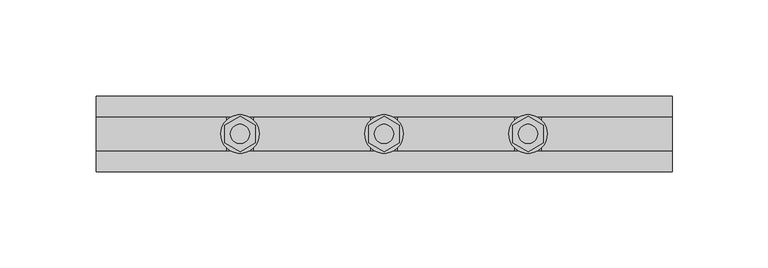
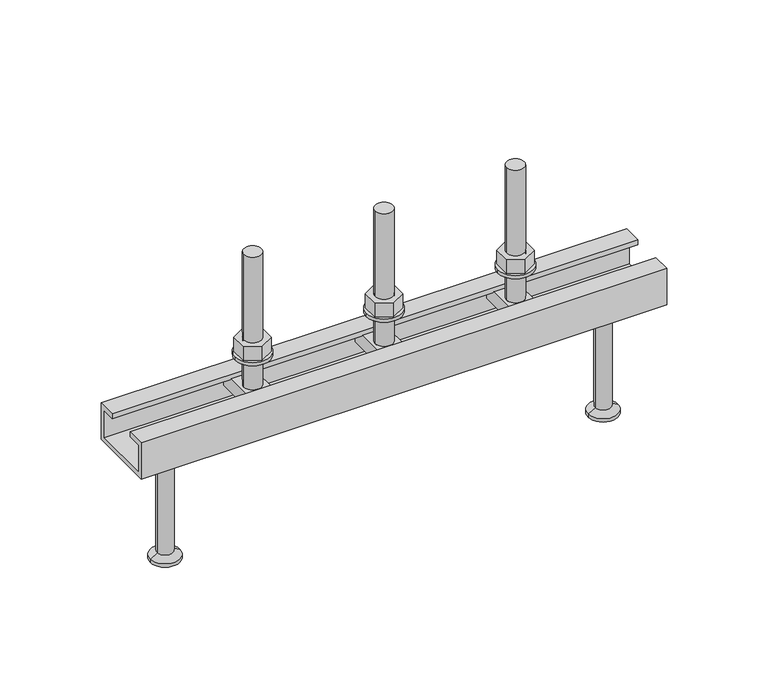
"""IFC4 building model written with IfcOpenShell, lengths in millimetres: fastener geometry, JTA-W JORDAHL® AnchorChannels : JTA-W L=300 mm."""

import ifcopenshell
import ifcopenshell.guid

model = None  # the IFC model being written
_history = None  # IfcOwnerHistory: only IFC2X3 demands one
_inside = {}  # id of a spatial element -> (the spatial element, [elements in it])
_under = {}  # id of a project, library or spatial element -> (it, [spatial elements below it])
_declared = {}  # id of a project -> (the project, [libraries it declares])
_typed = {}  # id of a type object -> (the type object, [elements of that type])
_made_of = {}  # id of a material, layer set ... -> (it, [elements and type objects made of it])


def new_model(schema):
    """Start an empty IFC model of exactly this schema.

    Asked for "IFC4X3", IfcOpenShell would pick the latest addendum, in which some entities
    have other attributes; the version numbers below select the first issue.
    IFC2X3 requires an IfcOwnerHistory on every rooted entity: one is made here for all.
    """
    global model, _history
    if schema == "IFC4X3":
        model = ifcopenshell.file(schema_version=(4, 3, 0, 0))
    else:
        model = ifcopenshell.file(schema=schema)
    _inside.clear()
    _under.clear()
    _declared.clear()
    _typed.clear()
    _made_of.clear()
    _history = None
    if model.schema == "IFC2X3":
        org = make("IfcOrganization", Name="unknown")
        user = make(
            "IfcPersonAndOrganization",
            ThePerson=make("IfcPerson", FamilyName="unknown"),
            TheOrganization=org,
        )
        app = make(
            "IfcApplication",
            ApplicationDeveloper=org,
            Version="unknown",
            ApplicationFullName="unknown",
            ApplicationIdentifier="unknown",
        )
        _history = make(
            "IfcOwnerHistory",
            OwningUser=user,
            OwningApplication=app,
            ChangeAction="ADDED",
            CreationDate=0,
        )
    return model


def make(cls, **values):
    """One entity of the class cls with the attributes given. An attribute that is None is left unset."""
    return model.create_entity(
        cls, **{name: value for name, value in values.items() if value is not None}
    )


def rooted(cls, **values):
    """An entity with a GlobalId (a new one), such as an element, a storey or a relation."""
    return make(cls, GlobalId=ifcopenshell.guid.new(), OwnerHistory=_history, **values)


def si_unit(unit_type, name, prefix=None):
    """IfcSIUnit, for example si_unit("LENGTHUNIT", "METRE", prefix="MILLI")."""
    return make("IfcSIUnit", UnitType=unit_type, Prefix=prefix, Name=name)


def assignment(units):
    """IfcUnitAssignment: the units of a project."""
    return None if units is None else make("IfcUnitAssignment", Units=units)


def point(xyz):
    """IfcCartesianPoint."""
    return None if xyz is None else make("IfcCartesianPoint", Coordinates=xyz)


def direction(xyz):
    """IfcDirection."""
    return None if xyz is None else make("IfcDirection", DirectionRatios=xyz)


def frame(location, z_axis=None, x_axis=None):
    """IfcAxis2Placement3D, a coordinate frame: its origin and axes. An axis left out is left unset."""
    return make(
        "IfcAxis2Placement3D",
        Location=point(location),
        Axis=direction(z_axis),
        RefDirection=direction(x_axis),
    )


def frame_2d(location, x_axis=None):
    """IfcAxis2Placement2D, a coordinate frame in the plane: its origin and x axis."""
    return make(
        "IfcAxis2Placement2D", Location=point(location), RefDirection=direction(x_axis)
    )


def origin():
    """The frame at (0, 0, 0) with its axes left unset."""
    return frame((0.0, 0.0, 0.0))


def place(relative_to, where):
    """IfcLocalPlacement: puts the frame where relative to a parent placement (None: the world)."""
    return make(
        "IfcLocalPlacement", PlacementRelTo=relative_to, RelativePlacement=where
    )


def context(
    kind, dimensions, precision=None, world=None, true_north=None, identifier=None
):
    """IfcGeometricRepresentationContext, for example the 3D "Model" context."""
    return make(
        "IfcGeometricRepresentationContext",
        ContextIdentifier=identifier,
        ContextType=kind,
        CoordinateSpaceDimension=dimensions,
        Precision=precision,
        WorldCoordinateSystem=world,
        TrueNorth=true_north,
    )


def project(units=None, contexts=None):
    """IfcProject with its units and contexts."""
    return rooted(
        "IfcProject",
        Name="project",
        RepresentationContexts=contexts,
        UnitsInContext=assignment(units),
    )


def spatial(cls, under=None, at=None, **own):
    """A site, building, storey or space (cls), placed at a placement, below another one or the project."""
    s = rooted(cls, ObjectPlacement=at, **own)
    if under is not None:
        _under.setdefault(under.id(), (under, []))[1].append(s)
    return s


def polyline(points):
    """IfcPolyline through the points."""
    return make("IfcPolyline", Points=[point(p) for p in points])


def circle_curve(where, radius):
    """IfcCircle in the frame where."""
    return make("IfcCircle", Position=where, Radius=radius)


def trimmed(basis, trim1, trim2, sense, master):
    """IfcTrimmedCurve: the piece of a basis curve between two trims."""
    return make(
        "IfcTrimmedCurve",
        BasisCurve=basis,
        Trim1=trim1,
        Trim2=trim2,
        SenseAgreement=sense,
        MasterRepresentation=master,
    )


def segment(curve, same_sense, transition):
    """IfcCompositeCurveSegment."""
    return make(
        "IfcCompositeCurveSegment",
        Transition=transition,
        SameSense=same_sense,
        ParentCurve=curve,
    )


def composite_curve(segments, self_intersect=None):
    """IfcCompositeCurve: segments joined end to end."""
    return make("IfcCompositeCurve", Segments=segments, SelfIntersect=self_intersect)


def outline(outer, holes=None, kind="AREA"):
    """IfcArbitraryClosedProfileDef: a profile drawn as a closed curve; with holes, ...WithVoids."""
    if holes is None:
        return make("IfcArbitraryClosedProfileDef", ProfileType=kind, OuterCurve=outer)
    return make(
        "IfcArbitraryProfileDefWithVoids",
        ProfileType=kind,
        OuterCurve=outer,
        InnerCurves=holes,
    )


def extrude(swept, where, along, depth):
    """IfcExtrudedAreaSolid: the profile swept, set in the frame where, extruded along a direction by depth."""
    return make(
        "IfcExtrudedAreaSolid",
        SweptArea=swept,
        Position=where,
        ExtrudedDirection=direction(along),
        Depth=depth,
    )


def shape(context_of_items, identifier, shape_type, items):
    """IfcShapeRepresentation: the items that make up one representation, for example the "Body"."""
    return make(
        "IfcShapeRepresentation",
        ContextOfItems=context_of_items,
        RepresentationIdentifier=identifier,
        RepresentationType=shape_type,
        Items=items,
    )


def source(mapping_origin, context_of_items, identifier, shape_type, items):
    """IfcRepresentationMap: a shape defined once, which mapped items show again and again."""
    return make(
        "IfcRepresentationMap",
        MappingOrigin=mapping_origin,
        MappedRepresentation=shape(context_of_items, identifier, shape_type, items),
    )


def transform(
    local_origin,
    x_axis=None,
    y_axis=None,
    z_axis=None,
    scale=None,
    scale2=None,
    scale3=None,
    uniform=True,
):
    """IfcCartesianTransformationOperator3D, or its non-uniform kind. x_axis, y_axis, z_axis: its Axis1, 2, 3."""
    if uniform:
        return make(
            "IfcCartesianTransformationOperator3D",
            Axis1=direction(x_axis),
            Axis2=direction(y_axis),
            LocalOrigin=point(local_origin),
            Scale=scale,
            Axis3=direction(z_axis),
        )
    return make(
        "IfcCartesianTransformationOperator3DnonUniform",
        Axis1=direction(x_axis),
        Axis2=direction(y_axis),
        LocalOrigin=point(local_origin),
        Scale=scale,
        Axis3=direction(z_axis),
        Scale2=scale2,
        Scale3=scale3,
    )


def mapped(mapping_source, mapping_target):
    """IfcMappedItem: shows the shape of a source again, moved by a transform."""
    return make(
        "IfcMappedItem", MappingSource=mapping_source, MappingTarget=mapping_target
    )


def made_of(thing, what):
    """Note that an element or type object is made of a material, layer set ...; save() writes the relation."""
    if what is not None:
        _made_of.setdefault(what.id(), (what, []))[1].append(thing)
    return thing


def element(
    cls,
    number,
    at=None,
    inside=None,
    cuts=None,
    type_object=None,
    material=None,
    context=None,
    identifier="Body",
    shape_type=None,
    held_by="IfcProductDefinitionShape",
    body=None,
    shapes=None,
    **own,
):
    """One element of the class cls, such as IfcWall. Its Tag is "e" and its number.

    at: its placement. inside: the storey or other place that contains it. cuts: it is an
    opening in that element (IfcRelVoidsElement). A single representation is given by context,
    identifier, shape_type and body (its items); several are given by shapes. held_by: the class
    of the entity that holds the representations. save() writes the other relations.
    """
    e = rooted(cls, Tag="e%d" % number, ObjectPlacement=at, **own)
    if body is not None:
        shapes = [shape(context, identifier, shape_type, body)]
    if shapes is not None:
        e.Representation = make(held_by, Representations=shapes)
    if inside is not None:
        _inside.setdefault(inside.id(), (inside, []))[1].append(e)
    if cuts is not None:
        rooted(
            "IfcRelVoidsElement", RelatingBuildingElement=cuts, RelatedOpeningElement=e
        )
    if type_object is not None:
        _typed.setdefault(type_object.id(), (type_object, []))[1].append(e)
    return made_of(e, material)


def aggregate(whole, parts):
    """IfcRelAggregates: a whole, such as a stair, and the parts it consists of."""
    return rooted("IfcRelAggregates", RelatingObject=whole, RelatedObjects=parts)


def save(model, path):
    """Write the relations noted so far, then the file.

    IfcRelAggregates (storeys below a building ...), IfcRelContainedInSpatialStructure (elements
    in a storey), IfcRelDefinesByType, IfcRelAssociatesMaterial and IfcRelDeclares: one each for
    every whole, place, type object, material and project.
    """
    for whole, parts in _under.values():
        aggregate(whole, parts)
    for where, things in _inside.values():
        rooted(
            "IfcRelContainedInSpatialStructure",
            RelatedElements=things,
            RelatingStructure=where,
        )
    for kind, things in _typed.values():
        rooted("IfcRelDefinesByType", RelatedObjects=things, RelatingType=kind)
    for what, things in _made_of.values():
        rooted("IfcRelAssociatesMaterial", RelatedObjects=things, RelatingMaterial=what)
    for by, libraries in _declared.values():
        rooted("IfcRelDeclares", RelatingContext=by, RelatedDefinitions=libraries)
    model.write(path)


def plane_surface(at):
    """IfcPlane: the flat surface through the origin of the frame at, square to its z axis."""
    return make("IfcPlane", Position=at)


def cylinder_surface(at, radius):
    """IfcCylindricalSurface: all points at the distance radius from the z axis of the frame at."""
    return make("IfcCylindricalSurface", Position=at, Radius=radius)


def revolved_surface(curve, axis_point, axis_direction):
    """IfcSurfaceOfRevolution: the curve turned about the line through axis_point along axis_direction."""
    return make(
        "IfcSurfaceOfRevolution",
        SweptCurve=make("IfcArbitraryOpenProfileDef", ProfileType="CURVE", Curve=curve),
        AxisPosition=make("IfcAxis1Placement", Location=point(axis_point), Axis=direction(axis_direction)),
    )


def advanced_brep(points, edges, surfaces, faces):
    """IfcAdvancedBrep: a solid bounded by faces that lie on surfaces and meet in shared edges.

    An edge is (start, end): straight between two places in points (the first is 0);
    or (start, end, curve); or (start, end, curve, False) where it runs against its curve.
    A face is (place in surfaces, loops), or (place, loops, False) where it looks against
    its surface's normal. A loop lists edges by number (the first is 1), with a minus sign
    where the edge is run from its end to its start. The first loop is the outer one.
    """
    corners = [point(p) for p in points]
    vertices = [make("IfcVertexPoint", VertexGeometry=c) for c in corners]
    made = []
    for start, end, *more in edges:
        made.append(
            make(
                "IfcEdgeCurve",
                EdgeStart=vertices[start],
                EdgeEnd=vertices[end],
                EdgeGeometry=more[0] if more else make("IfcPolyline", Points=[corners[start], corners[end]]),
                SameSense=more[1] if len(more) > 1 else True,
            )
        )
    hull = []
    for where, loops, *sense in faces:
        bounds = []
        for j, loop in enumerate(loops):
            ring = [make("IfcOrientedEdge", EdgeElement=made[abs(k) - 1], Orientation=k > 0) for k in loop]
            bounds.append(
                make(
                    "IfcFaceOuterBound" if j == 0 else "IfcFaceBound",
                    Bound=make("IfcEdgeLoop", EdgeList=ring),
                    Orientation=True,
                )
            )
        hull.append(make("IfcAdvancedFace", Bounds=bounds, FaceSurface=surfaces[where], SameSense=sense[0] if sense else True))
    return make("IfcAdvancedBrep", Outer=make("IfcClosedShell", CfsFaces=hull))


def fastener_d3d8a801(model_context):
    return source(origin(), model_context, "Body", "SolidModel", [
        extrude(outline(polyline([(150.0, 9.2376043), (158.0, 4.6188022), (158.0, -4.6188022), (150.0, -9.2376043), (142.0, -4.6188022), (142.0, 4.6188022), (150.0, 9.2376043)]), holes=[composite_curve([segment(trimmed(circle_curve(frame_2d((150.0, 0.0)), 5.0), [point((145.0, 0.0))], [point((155.0, 0.0))], True, "CARTESIAN"), True, "CONTINUOUS"), segment(trimmed(circle_curve(frame_2d((150.0, 0.0)), 5.0), [point((155.0, 0.0))], [point((145.0, 0.0))], True, "CARTESIAN"), True, "CONTINUOUS")], self_intersect=False)]), frame((0.0, 0.0, 17.0), z_axis=(0.0, 0.0, 1.0), x_axis=(1.0, 0.0, 0.0)), (0.0, 0.0, 1.0), 8.4),
        extrude(outline(composite_curve([segment(trimmed(circle_curve(frame_2d((150.0, 0.0)), 10.0), [point((140.0, 0.0))], [point((160.0, 0.0))], False, "CARTESIAN"), True, "CONTINUOUS"), segment(trimmed(circle_curve(frame_2d((150.0, 0.0)), 10.0), [point((160.0, 0.0))], [point((140.0, 0.0))], False, "CARTESIAN"), True, "CONTINUOUS")], self_intersect=False), holes=[composite_curve([segment(trimmed(circle_curve(frame_2d((150.0, 0.0)), 5.25), [point((144.75, 0.0))], [point((155.25, 0.0))], True, "CARTESIAN"), True, "CONTINUOUS"), segment(trimmed(circle_curve(frame_2d((150.0, 0.0)), 5.25), [point((155.25, 0.0))], [point((144.75, 0.0))], True, "CARTESIAN"), True, "CONTINUOUS")], self_intersect=False)]), frame((0.0, 0.0, 15.0), z_axis=(0.0, 0.0, 1.0), x_axis=(1.0, 0.0, 0.0)), (0.0, 0.0, 1.0), 2.0),
        advanced_brep(
        [(157.0, 16.25, -3.0), (157.0, -16.25, -3.0), (157.0, -16.25, -11.0), (157.0, 16.25, -11.0), (143.0, 16.25, -3.0), (143.0, 16.25, -11.0), (143.0, -16.25, -11.0), (143.0, -16.25, -3.0), (155.0, 0.0, -3.0), (145.0, 0.0, -3.0), (145.0, 0.0, 77.0), (155.0, 0.0, 77.0)],
        [
            (0, 1),
            (1, 2),
            (2, 3),
            (3, 0),
            (4, 5),
            (5, 6),
            (6, 7),
            (7, 4),
            (0, 4),
            (7, 1),
            (8, 9, circle_curve(frame((150.0, 0.0, -3.0), z_axis=(0.0, 0.0, -1.0), x_axis=(1.0, 0.0, 0.0)), 5.0)),
            (9, 8, circle_curve(frame((150.0, 0.0, -3.0), z_axis=(0.0, 0.0, -1.0), x_axis=(1.0, 0.0, 0.0)), 5.0)),
            (6, 2),
            (5, 3),
            (10, 11, circle_curve(frame((150.0, 0.0, 77.0), z_axis=(0.0, 0.0, 1.0), x_axis=(1.0, 0.0, 0.0)), 5.0)),
            (11, 10, circle_curve(frame((150.0, 0.0, 77.0), z_axis=(0.0, 0.0, 1.0), x_axis=(1.0, 0.0, 0.0)), 5.0)),
            (10, 9),
            (8, 11),
        ],
        [
            plane_surface(frame((157.0, -16.25, -3.0), z_axis=(1.0, 0.0, 0.0), x_axis=(0.0, -1.0, 0.0))),
            plane_surface(frame((143.0, -16.25, -3.0), z_axis=(-1.0, 0.0, 0.0), x_axis=(0.0, 1.0, 0.0))),
            plane_surface(frame((157.0, 16.25, -3.0), z_axis=(0.0, 0.0, 1.0), x_axis=(-1.0, 0.0, 0.0))),
            plane_surface(frame((157.0, -16.25, -3.0), z_axis=(0.0, -1.0, 0.0), x_axis=(-1.0, 0.0, 0.0))),
            plane_surface(frame((157.0, -16.25, -11.0), z_axis=(0.0, 0.0, -1.0), x_axis=(-1.0, 0.0, 0.0))),
            plane_surface(frame((157.0, 16.25, -11.0), z_axis=(0.0, 1.0, 0.0), x_axis=(-1.0, 0.0, 0.0))),
            plane_surface(frame((155.0, 0.0, 77.0), z_axis=(0.0, 0.0, 1.0), x_axis=(0.0, 1.0, 0.0))),
            cylinder_surface(frame((150.0, 0.0, -3.0), z_axis=(0.0, 0.0, 1.0), x_axis=(1.0, 0.0, 0.0)), 5.0),
        ],
        [
            (0, [[1, 2, 3, 4]]),
            (1, [[5, 6, 7, 8]]),
            (2, [[-1, 9, -8, 10], [11, 12]]),
            (3, [[-2, -10, -7, 13]]),
            (4, [[-3, -13, -6, 14]]),
            (5, [[-4, -14, -5, -9]]),
            (6, [[15, 16]]),
            (7, [[-15, 17, -11, 18]]),
            (7, [[-16, -18, -12, -17]]),
        ],
    ),
        extrude(outline(polyline([(225.0, 9.2376043), (233.0, 4.6188022), (233.0, -4.6188022), (225.0, -9.2376043), (217.0, -4.6188022), (217.0, 4.6188022), (225.0, 9.2376043)]), holes=[composite_curve([segment(trimmed(circle_curve(frame_2d((225.0, 0.0)), 5.0), [point((220.0, 0.0))], [point((230.0, 0.0))], True, "CARTESIAN"), True, "CONTINUOUS"), segment(trimmed(circle_curve(frame_2d((225.0, 0.0)), 5.0), [point((230.0, 0.0))], [point((220.0, 0.0))], True, "CARTESIAN"), True, "CONTINUOUS")], self_intersect=False)]), frame((0.0, 0.0, 17.0), z_axis=(0.0, 0.0, 1.0), x_axis=(1.0, 0.0, 0.0)), (0.0, 0.0, 1.0), 8.4),
        extrude(outline(composite_curve([segment(trimmed(circle_curve(frame_2d((225.0, 0.0)), 10.0), [point((215.0, 0.0))], [point((235.0, 0.0))], False, "CARTESIAN"), True, "CONTINUOUS"), segment(trimmed(circle_curve(frame_2d((225.0, 0.0)), 10.0), [point((235.0, 0.0))], [point((215.0, 0.0))], False, "CARTESIAN"), True, "CONTINUOUS")], self_intersect=False), holes=[composite_curve([segment(trimmed(circle_curve(frame_2d((225.0, 0.0)), 5.25), [point((219.75, 0.0))], [point((230.25, 0.0))], True, "CARTESIAN"), True, "CONTINUOUS"), segment(trimmed(circle_curve(frame_2d((225.0, 0.0)), 5.25), [point((230.25, 0.0))], [point((219.75, 0.0))], True, "CARTESIAN"), True, "CONTINUOUS")], self_intersect=False)]), frame((0.0, 0.0, 15.0), z_axis=(0.0, 0.0, 1.0), x_axis=(1.0, 0.0, 0.0)), (0.0, 0.0, 1.0), 2.0),
        extrude(outline(polyline([(75.0, 9.2376043), (83.0, 4.6188022), (83.0, -4.6188022), (75.0, -9.2376043), (67.0, -4.6188022), (67.0, 4.6188022), (75.0, 9.2376043)]), holes=[composite_curve([segment(trimmed(circle_curve(frame_2d((75.0, 0.0)), 5.0), [point((70.0, 0.0))], [point((80.0, 0.0))], True, "CARTESIAN"), True, "CONTINUOUS"), segment(trimmed(circle_curve(frame_2d((75.0, 0.0)), 5.0), [point((80.0, 0.0))], [point((70.0, 0.0))], True, "CARTESIAN"), True, "CONTINUOUS")], self_intersect=False)]), frame((0.0, 0.0, 17.0), z_axis=(0.0, 0.0, 1.0), x_axis=(1.0, 0.0, 0.0)), (0.0, 0.0, 1.0), 8.4),
        extrude(outline(composite_curve([segment(trimmed(circle_curve(frame_2d((75.0, 0.0)), 10.0), [point((65.0, 0.0))], [point((85.0, 0.0))], False, "CARTESIAN"), True, "CONTINUOUS"), segment(trimmed(circle_curve(frame_2d((75.0, 0.0)), 10.0), [point((85.0, 0.0))], [point((65.0, 0.0))], False, "CARTESIAN"), True, "CONTINUOUS")], self_intersect=False), holes=[composite_curve([segment(trimmed(circle_curve(frame_2d((75.0, 0.0)), 5.25), [point((69.75, 0.0))], [point((80.25, 0.0))], True, "CARTESIAN"), True, "CONTINUOUS"), segment(trimmed(circle_curve(frame_2d((75.0, 0.0)), 5.25), [point((80.25, 0.0))], [point((69.75, 0.0))], True, "CARTESIAN"), True, "CONTINUOUS")], self_intersect=False)]), frame((0.0, 0.0, 15.0), z_axis=(0.0, 0.0, 1.0), x_axis=(1.0, 0.0, 0.0)), (0.0, 0.0, 1.0), 2.0),
        advanced_brep(
        [(232.0, 16.25, -3.0), (232.0, -16.25, -3.0), (232.0, -16.25, -11.0), (232.0, 16.25, -11.0), (218.0, 16.25, -3.0), (218.0, 16.25, -11.0), (218.0, -16.25, -11.0), (218.0, -16.25, -3.0), (230.0, 0.0, -3.0), (220.0, 0.0, -3.0), (220.0, 0.0, 77.0), (230.0, 0.0, 77.0)],
        [
            (0, 1),
            (1, 2),
            (2, 3),
            (3, 0),
            (4, 5),
            (5, 6),
            (6, 7),
            (7, 4),
            (0, 4),
            (7, 1),
            (8, 9, circle_curve(frame((225.0, 0.0, -3.0), z_axis=(0.0, 0.0, -1.0), x_axis=(1.0, 0.0, 0.0)), 5.0)),
            (9, 8, circle_curve(frame((225.0, 0.0, -3.0), z_axis=(0.0, 0.0, -1.0), x_axis=(1.0, 0.0, 0.0)), 5.0)),
            (6, 2),
            (5, 3),
            (10, 11, circle_curve(frame((225.0, 0.0, 77.0), z_axis=(0.0, 0.0, 1.0), x_axis=(1.0, 0.0, 0.0)), 5.0)),
            (11, 10, circle_curve(frame((225.0, 0.0, 77.0), z_axis=(0.0, 0.0, 1.0), x_axis=(1.0, 0.0, 0.0)), 5.0)),
            (10, 9),
            (8, 11),
        ],
        [
            plane_surface(frame((232.0, -16.25, -3.0), z_axis=(1.0, 0.0, 0.0), x_axis=(0.0, -1.0, 0.0))),
            plane_surface(frame((218.0, -16.25, -3.0), z_axis=(-1.0, 0.0, 0.0), x_axis=(0.0, 1.0, 0.0))),
            plane_surface(frame((232.0, 16.25, -3.0), z_axis=(0.0, 0.0, 1.0), x_axis=(-1.0, 0.0, 0.0))),
            plane_surface(frame((232.0, -16.25, -3.0), z_axis=(0.0, -1.0, 0.0), x_axis=(-1.0, 0.0, 0.0))),
            plane_surface(frame((232.0, -16.25, -11.0), z_axis=(0.0, 0.0, -1.0), x_axis=(-1.0, 0.0, 0.0))),
            plane_surface(frame((232.0, 16.25, -11.0), z_axis=(0.0, 1.0, 0.0), x_axis=(-1.0, 0.0, 0.0))),
            plane_surface(frame((230.0, 0.0, 77.0), z_axis=(0.0, 0.0, 1.0), x_axis=(0.0, 1.0, 0.0))),
            cylinder_surface(frame((225.0, 0.0, -3.0), z_axis=(0.0, 0.0, 1.0), x_axis=(1.0, 0.0, 0.0)), 5.0),
        ],
        [
            (0, [[1, 2, 3, 4]]),
            (1, [[5, 6, 7, 8]]),
            (2, [[-1, 9, -8, 10], [11, 12]]),
            (3, [[-2, -10, -7, 13]]),
            (4, [[-3, -13, -6, 14]]),
            (5, [[-4, -14, -5, -9]]),
            (6, [[15, 16]]),
            (7, [[-15, 17, -11, 18]]),
            (7, [[-16, -18, -12, -17]]),
        ],
    ),
        advanced_brep(
        [(82.0, 16.25, -3.0), (82.0, -16.25, -3.0), (82.0, -16.25, -11.0), (82.0, 16.25, -11.0), (68.0, 16.25, -3.0), (68.0, 16.25, -11.0), (68.0, -16.25, -11.0), (68.0, -16.25, -3.0), (80.0, 0.0, -3.0), (70.0, 0.0, -3.0), (70.0, 0.0, 77.0), (80.0, 0.0, 77.0)],
        [
            (0, 1),
            (1, 2),
            (2, 3),
            (3, 0),
            (4, 5),
            (5, 6),
            (6, 7),
            (7, 4),
            (0, 4),
            (7, 1),
            (8, 9, circle_curve(frame((75.0, 0.0, -3.0), z_axis=(0.0, 0.0, -1.0), x_axis=(1.0, 0.0, 0.0)), 5.0)),
            (9, 8, circle_curve(frame((75.0, 0.0, -3.0), z_axis=(0.0, 0.0, -1.0), x_axis=(1.0, 0.0, 0.0)), 5.0)),
            (6, 2),
            (5, 3),
            (10, 11, circle_curve(frame((75.0, 0.0, 77.0), z_axis=(0.0, 0.0, 1.0), x_axis=(1.0, 0.0, 0.0)), 5.0)),
            (11, 10, circle_curve(frame((75.0, 0.0, 77.0), z_axis=(0.0, 0.0, 1.0), x_axis=(1.0, 0.0, 0.0)), 5.0)),
            (10, 9),
            (8, 11),
        ],
        [
            plane_surface(frame((82.0, -16.25, -3.0), z_axis=(1.0, 0.0, 0.0), x_axis=(0.0, -1.0, 0.0))),
            plane_surface(frame((68.0, -16.25, -3.0), z_axis=(-1.0, 0.0, 0.0), x_axis=(0.0, 1.0, 0.0))),
            plane_surface(frame((82.0, 16.25, -3.0), z_axis=(0.0, 0.0, 1.0), x_axis=(-1.0, 0.0, 0.0))),
            plane_surface(frame((82.0, -16.25, -3.0), z_axis=(0.0, -1.0, 0.0), x_axis=(-1.0, 0.0, 0.0))),
            plane_surface(frame((82.0, -16.25, -11.0), z_axis=(0.0, 0.0, -1.0), x_axis=(-1.0, 0.0, 0.0))),
            plane_surface(frame((82.0, 16.25, -11.0), z_axis=(0.0, 1.0, 0.0), x_axis=(-1.0, 0.0, 0.0))),
            plane_surface(frame((80.0, 0.0, 77.0), z_axis=(0.0, 0.0, 1.0), x_axis=(0.0, 1.0, 0.0))),
            cylinder_surface(frame((75.0, 0.0, -3.0), z_axis=(0.0, 0.0, 1.0), x_axis=(1.0, 0.0, 0.0)), 5.0),
        ],
        [
            (0, [[1, 2, 3, 4]]),
            (1, [[5, 6, 7, 8]]),
            (2, [[-1, 9, -8, 10], [11, 12]]),
            (3, [[-2, -10, -7, 13]]),
            (4, [[-3, -13, -6, 14]]),
            (5, [[-4, -14, -5, -9]]),
            (6, [[15, 16]]),
            (7, [[-15, 17, -11, 18]]),
            (7, [[-16, -18, -12, -17]]),
        ],
    ),
        advanced_brep(
        [(275.0, 0.0, -22.0), (288.5, 0.0, -22.0), (261.5, 0.0, -22.0), (266.5, 0.0, -90.0), (283.5, 0.0, -90.0), (275.0, 0.0, -90.0), (266.5, 0.0, -88.0), (283.5, 0.0, -88.0), (270.5, 0.0, -85.6905989), (279.5, 0.0, -85.6905989), (270.5, 0.0, -24.5), (279.5, 0.0, -24.5)],
        [
            (0, 1),
            (1, 2, circle_curve(frame((275.0, 0.0, -22.0), z_axis=(0.0, 0.0, 1.0), x_axis=(1.0, 0.0, 0.0)), 13.5)),
            (2, 0),
            (2, 1, circle_curve(frame((275.0, 0.0, -22.0), z_axis=(0.0, 0.0, 1.0), x_axis=(1.0, 0.0, 0.0)), 13.5)),
            (3, 4, circle_curve(frame((275.0, 0.0, -90.0), z_axis=(0.0, 0.0, -1.0), x_axis=(1.0, 0.0, 0.0)), 8.5)),
            (4, 5),
            (5, 3),
            (4, 3, circle_curve(frame((275.0, 0.0, -90.0), z_axis=(0.0, 0.0, -1.0), x_axis=(1.0, 0.0, 0.0)), 8.5)),
            (6, 7, circle_curve(frame((275.0, 0.0, -88.0), z_axis=(0.0, 0.0, -1.0), x_axis=(1.0, 0.0, 0.0)), 8.5)),
            (7, 4),
            (3, 6),
            (7, 6, circle_curve(frame((275.0, 0.0, -88.0), z_axis=(0.0, 0.0, -1.0), x_axis=(1.0, 0.0, 0.0)), 8.5)),
            (8, 9, circle_curve(frame((275.0, 0.0, -85.6905989), z_axis=(0.0, 0.0, -1.0), x_axis=(1.0, 0.0, 0.0)), 4.5)),
            (9, 7),
            (6, 8),
            (9, 8, circle_curve(frame((275.0, 0.0, -85.6905989), z_axis=(0.0, 0.0, -1.0), x_axis=(1.0, 0.0, 0.0)), 4.5)),
            (10, 11, circle_curve(frame((275.0, 0.0, -24.5), z_axis=(0.0, 0.0, -1.0), x_axis=(1.0, 0.0, 0.0)), 4.5)),
            (11, 9),
            (8, 10),
            (11, 10, circle_curve(frame((275.0, 0.0, -24.5), z_axis=(0.0, 0.0, -1.0), x_axis=(1.0, 0.0, 0.0)), 4.5)),
            (1, 11),
            (10, 2),
        ],
        [
            plane_surface(frame((275.0, 0.0, -22.0), z_axis=(0.0, 0.0, 1.0), x_axis=(1.0, 0.0, 0.0))),
            plane_surface(frame((275.0, 0.0, -90.0), z_axis=(0.0, 0.0, -1.0), x_axis=(1.0, 0.0, 0.0))),
            cylinder_surface(frame((275.0, 0.0, 2282.3150031), z_axis=(0.0, 0.0, 1.0), x_axis=(1.0, 0.0, 0.0)), 8.5),
            revolved_surface(polyline([(283.5, 0.0, -88.0), (279.5, 0.0, -85.6905989)]), (275.0, 0.0, 2282.3150031), (0.0, 0.0, 1.0)),
            cylinder_surface(frame((275.0, 0.0, 2282.3150031), z_axis=(0.0, 0.0, 1.0), x_axis=(1.0, 0.0, 0.0)), 4.5),
            revolved_surface(polyline([(279.5, 0.0, -24.5), (288.5, 0.0, -22.0)]), (275.0, 0.0, 2282.3150031), (0.0, 0.0, 1.0)),
        ],
        [
            (0, [[1, 2, 3]]),
            (0, [[-3, 4, -1]]),
            (1, [[5, 6, 7]]),
            (1, [[8, -7, -6]]),
            (2, [[9, 10, -5, 11]]),
            (2, [[12, -11, -8, -10]]),
            (3, [[13, 14, -9, 15]]),
            (3, [[16, -15, -12, -14]]),
            (4, [[17, 18, -13, 19]]),
            (4, [[20, -19, -16, -18]]),
            (5, [[-2, 21, -17, 22]]),
            (5, [[-4, -22, -20, -21]]),
        ],
    ),
        advanced_brep(
        [(25.0, 0.0, -22.0), (38.5, 0.0, -22.0), (11.5, 0.0, -22.0), (16.5, 0.0, -90.0), (33.5, 0.0, -90.0), (25.0, 0.0, -90.0), (16.5, 0.0, -88.0), (33.5, 0.0, -88.0), (20.5, 0.0, -85.6905989), (29.5, 0.0, -85.6905989), (20.5, 0.0, -24.5), (29.5, 0.0, -24.5)],
        [
            (0, 1),
            (1, 2, circle_curve(frame((25.0, 0.0, -22.0), z_axis=(0.0, 0.0, 1.0), x_axis=(1.0, 0.0, 0.0)), 13.5)),
            (2, 0),
            (2, 1, circle_curve(frame((25.0, 0.0, -22.0), z_axis=(0.0, 0.0, 1.0), x_axis=(1.0, 0.0, 0.0)), 13.5)),
            (3, 4, circle_curve(frame((25.0, 0.0, -90.0), z_axis=(0.0, 0.0, -1.0), x_axis=(1.0, 0.0, 0.0)), 8.5)),
            (4, 5),
            (5, 3),
            (4, 3, circle_curve(frame((25.0, 0.0, -90.0), z_axis=(0.0, 0.0, -1.0), x_axis=(1.0, 0.0, 0.0)), 8.5)),
            (6, 7, circle_curve(frame((25.0, 0.0, -88.0), z_axis=(0.0, 0.0, -1.0), x_axis=(1.0, 0.0, 0.0)), 8.5)),
            (7, 4),
            (3, 6),
            (7, 6, circle_curve(frame((25.0, 0.0, -88.0), z_axis=(0.0, 0.0, -1.0), x_axis=(1.0, 0.0, 0.0)), 8.5)),
            (8, 9, circle_curve(frame((25.0, 0.0, -85.6905989), z_axis=(0.0, 0.0, -1.0), x_axis=(1.0, 0.0, 0.0)), 4.5)),
            (9, 7),
            (6, 8),
            (9, 8, circle_curve(frame((25.0, 0.0, -85.6905989), z_axis=(0.0, 0.0, -1.0), x_axis=(1.0, 0.0, 0.0)), 4.5)),
            (10, 11, circle_curve(frame((25.0, 0.0, -24.5), z_axis=(0.0, 0.0, -1.0), x_axis=(1.0, 0.0, 0.0)), 4.5)),
            (11, 9),
            (8, 10),
            (11, 10, circle_curve(frame((25.0, 0.0, -24.5), z_axis=(0.0, 0.0, -1.0), x_axis=(1.0, 0.0, 0.0)), 4.5)),
            (1, 11),
            (10, 2),
        ],
        [
            plane_surface(frame((25.0, 0.0, -22.0), z_axis=(0.0, 0.0, 1.0), x_axis=(1.0, 0.0, 0.0))),
            plane_surface(frame((25.0, 0.0, -90.0), z_axis=(0.0, 0.0, -1.0), x_axis=(1.0, 0.0, 0.0))),
            cylinder_surface(frame((25.0, 0.0, 2282.3150031), z_axis=(0.0, 0.0, 1.0), x_axis=(1.0, 0.0, 0.0)), 8.5),
            revolved_surface(polyline([(33.5, 0.0, -88.0), (29.5, 0.0, -85.6905989)]), (25.0, 0.0, 2282.3150031), (0.0, 0.0, 1.0)),
            cylinder_surface(frame((25.0, 0.0, 2282.3150031), z_axis=(0.0, 0.0, 1.0), x_axis=(1.0, 0.0, 0.0)), 4.5),
            revolved_surface(polyline([(29.5, 0.0, -24.5), (38.5, 0.0, -22.0)]), (25.0, 0.0, 2282.3150031), (0.0, 0.0, 1.0)),
        ],
        [
            (0, [[1, 2, 3]]),
            (0, [[-3, 4, -1]]),
            (1, [[5, 6, 7]]),
            (1, [[8, -7, -6]]),
            (2, [[9, 10, -5, 11]]),
            (2, [[12, -11, -8, -10]]),
            (3, [[13, 14, -9, 15]]),
            (3, [[16, -15, -12, -14]]),
            (4, [[17, 18, -13, 19]]),
            (4, [[20, -19, -16, -18]]),
            (5, [[-2, 21, -17, 22]]),
            (5, [[-4, -22, -20, -21]]),
        ],
    ),
        extrude(outline(polyline([(19.75, 0.0), (19.75, -22.0), (-19.75, -22.0), (-19.75, 0.0), (-9.0, 0.0), (-9.0, -3.0), (-17.25, -3.0), (-17.25, -19.5), (17.25, -19.5), (17.25, -3.0), (9.0, -3.0), (9.0, 0.0), (19.75, 0.0)])), frame((0.0, 0.0, 0.0), z_axis=(1.0, 0.0, 0.0), x_axis=(0.0, 1.0, 0.0)), (0.0, 0.0, 1.0), 300.0),
    ])


if __name__ == "__main__":
    model = new_model("IFC4")
    model_context = context("Model", 3, world=origin())
    ifc_project = project(units=[si_unit("LENGTHUNIT", "METRE", prefix="MILLI")], contexts=[model_context])
    site = spatial("IfcSite", under=ifc_project)
    building = spatial("IfcBuilding", under=site)
    placement = place(None, origin())
    fastener_shape = fastener_d3d8a801(model_context)
    element("IfcFastener", 1, ObjectType="JTA-W JORDAHL® AnchorChannels : JTA-W L=300 mm", at=placement, inside=building, context=model_context, shape_type="MappedRepresentation", body=[
        mapped(fastener_shape, transform((0.0, 0.0, 0.0), x_axis=(1.0, 0.0, 0.0), y_axis=(0.0, 1.0, 0.0), z_axis=(0.0, 0.0, 1.0))),
    ])
    save(model, "model.ifc")
